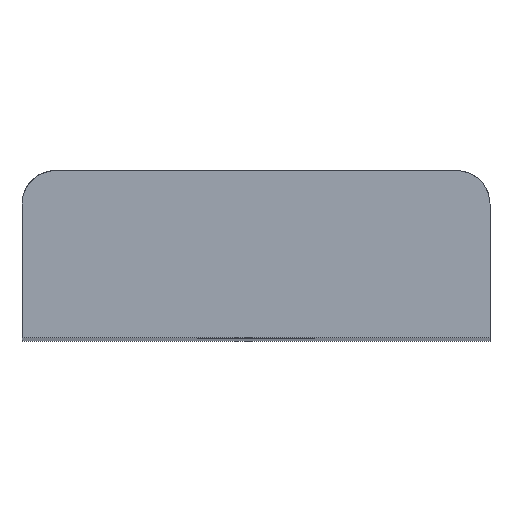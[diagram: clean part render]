
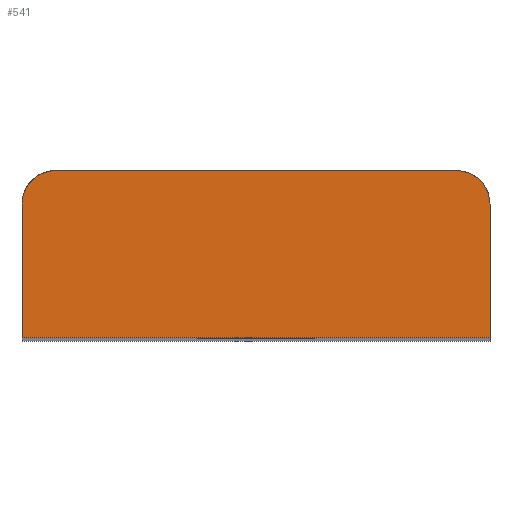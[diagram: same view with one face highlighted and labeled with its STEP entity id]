
A CAD part, top view. The second image highlights one B-rep face of the part: STEP entity #541.
In plain terms, the highlighted face is a extrusion surface.
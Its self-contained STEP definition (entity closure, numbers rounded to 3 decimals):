
#480=CARTESIAN_POINT('Control Point',(-14.,-5.,62.5)) ;
#481=CARTESIAN_POINT('Control Point',(14.066,-5.,62.5)) ;
#486=CARTESIAN_POINT('Control Point',(-12.,5.,62.5)) ;
#487=CARTESIAN_POINT('Control Point',(-12.628,5.,62.5)) ;
#488=CARTESIAN_POINT('Control Point',(-13.257,4.754,62.5)) ;
#489=CARTESIAN_POINT('Control Point',(-13.754,4.257,62.5)) ;
#490=CARTESIAN_POINT('Control Point',(-14.,3.628,62.5)) ;
#491=CARTESIAN_POINT('Control Point',(-14.,3.,62.5)) ;
#492=CARTESIAN_POINT('Vertex',(-12.,5.,62.5)) ;
#494=CARTESIAN_POINT('Vertex',(-14.,3.,62.5)) ;
#497=CARTESIAN_POINT('Line Origine',(-14.,0.,62.5)) ;
#501=CARTESIAN_POINT('Vertex',(-14.,-5.,62.5)) ;
#504=CARTESIAN_POINT('Line Origine',(0.,-5.,62.5)) ;
#508=CARTESIAN_POINT('Vertex',(14.,-5.,62.5)) ;
#511=CARTESIAN_POINT('Line Origine',(14.,0.,62.5)) ;
#515=CARTESIAN_POINT('Vertex',(14.,3.,62.5)) ;
#519=CARTESIAN_POINT('Control Point',(14.,3.,62.5)) ;
#520=CARTESIAN_POINT('Control Point',(14.,3.628,62.5)) ;
#521=CARTESIAN_POINT('Control Point',(13.754,4.257,62.5)) ;
#522=CARTESIAN_POINT('Control Point',(13.257,4.754,62.5)) ;
#523=CARTESIAN_POINT('Control Point',(12.628,5.,62.5)) ;
#524=CARTESIAN_POINT('Control Point',(12.,5.,62.5)) ;
#525=CARTESIAN_POINT('Vertex',(12.,5.,62.5)) ;
#528=CARTESIAN_POINT('Line Origine',(0.,5.,62.5)) ;
#482=DIRECTION('Vector Direction',(0.,1.,0.)) ;
#498=DIRECTION('Vector Direction',(0.,1.,0.)) ;
#505=DIRECTION('Vector Direction',(1.,0.,0.)) ;
#512=DIRECTION('Vector Direction',(0.,1.,0.)) ;
#529=DIRECTION('Vector Direction',(1.,0.,0.)) ;
#534=ORIENTED_EDGE('',*,*,#496,.T.) ;
#535=ORIENTED_EDGE('',*,*,#503,.T.) ;
#536=ORIENTED_EDGE('',*,*,#510,.T.) ;
#537=ORIENTED_EDGE('',*,*,#517,.T.) ;
#538=ORIENTED_EDGE('',*,*,#527,.T.) ;
#539=ORIENTED_EDGE('',*,*,#532,.T.) ;
#483=VECTOR('Extrusion Surface Vector',#482,1.) ;
#499=VECTOR('Line Direction',#498,1.) ;
#506=VECTOR('Line Direction',#505,1.) ;
#513=VECTOR('Line Direction',#512,1.) ;
#530=VECTOR('Line Direction',#529,1.) ;
#541=ADVANCED_FACE('Superficie.7',(#540),#484,.T.) ;
#479=B_SPLINE_CURVE_WITH_KNOTS('',1,(#480,#481),.UNSPECIFIED.,.F.,.U.,(2,2),(-14.,14.066),.UNSPECIFIED.) ;
#485=B_SPLINE_CURVE_WITH_KNOTS('',5,(#486,#487,#488,#489,#490,#491),.UNSPECIFIED.,.F.,.U.,(6,6),(0.,4.443),.UNSPECIFIED.) ;
#518=B_SPLINE_CURVE_WITH_KNOTS('',5,(#519,#520,#521,#522,#523,#524),.UNSPECIFIED.,.F.,.U.,(6,6),(0.,4.443),.UNSPECIFIED.) ;
#496=EDGE_CURVE('',#493,#495,#485,.T.) ;
#503=EDGE_CURVE('',#495,#502,#500,.F.) ;
#510=EDGE_CURVE('',#502,#509,#507,.T.) ;
#517=EDGE_CURVE('',#509,#516,#514,.T.) ;
#527=EDGE_CURVE('',#516,#526,#518,.T.) ;
#532=EDGE_CURVE('',#526,#493,#531,.F.) ;
#533=EDGE_LOOP('',(#534,#535,#536,#537,#538,#539)) ;
#540=FACE_OUTER_BOUND('',#533,.T.) ;
#500=LINE('Line',#497,#499) ;
#507=LINE('Line',#504,#506) ;
#514=LINE('Line',#511,#513) ;
#531=LINE('Line',#528,#530) ;
#484=SURFACE_OF_LINEAR_EXTRUSION('generated tabulated cylinder',#479,#483) ;
#493=VERTEX_POINT('',#492) ;
#495=VERTEX_POINT('',#494) ;
#502=VERTEX_POINT('',#501) ;
#509=VERTEX_POINT('',#508) ;
#516=VERTEX_POINT('',#515) ;
#526=VERTEX_POINT('',#525) ;
